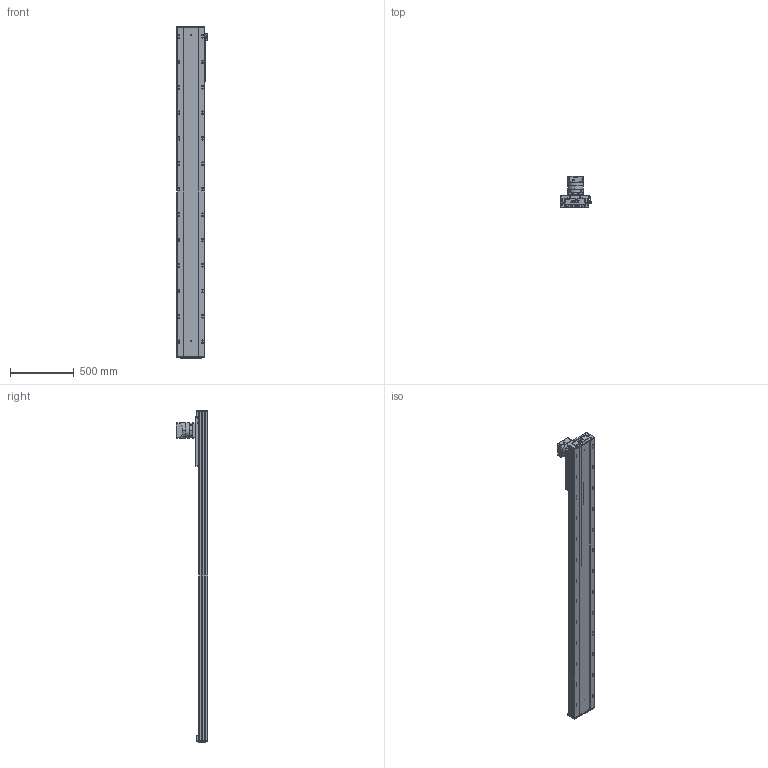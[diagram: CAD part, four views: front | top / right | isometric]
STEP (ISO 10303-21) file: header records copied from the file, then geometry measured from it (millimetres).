
FILE_DESCRIPTION (( 'STEP AP203' ), '1' );
FILE_NAME ('RY220-C-300-UK.SLDASM_2100.step', '2022-08-01T05:59:52', ( '' ), ( '' ), 'SwSTEP 2.0', 'SolidWorks 2016', '' );
FILE_SCHEMA (( 'CONFIG_CONTROL_DESIGN' ));
Length unit declared in the file: millimetre
Products named in the file (10): RY220-齿条模组电机安装板; PF115L1-S2-22-58-110-145-M8; RY220菁釱MK-300_2100; RY140直线电机感应器674光电安装座; RY220-C-300-UK.SLDASM_2100; 滅袉蝶輸ㄗG412隅秶ㄘ; RY220喘沭賑輸; 覜茼ん674; RY220喘沭俋离覜茼え; RY220喘沭綴裔啣
Assembly tree (12 placements, depth 2):
  RY220-C-300-UK.SLDASM_2100
    RY220菁釱MK-300_2100
    RY220喘沭賑輸
    RY220-齿条模组电机安装板
    PF115L1-S2-22-58-110-145-M8
    RY220喘沭綴裔啣  x2
    滅袉蝶輸ㄗG412隅秶ㄘ  x2
    RY140直线电机感应器674光电安装座
    覜茼ん674  x2
    RY220喘沭俋离覜茼え
Bounding box: 247 x 244.5 x 2609 mm (x, y, z)
Volume: 18316926.9 mm3; surface area: 3724537.2 mm2
Topology: 18 solids, 26 shells, 2220 faces, 5969 edges, 3749 vertices
Faces by surface type: cylinder 1057, plane 751, cone 250, bspline 162
Entity records: 70405 total; most frequent: CARTESIAN_POINT 19177, DIRECTION 10551, ORIENTED_EDGE 10338, EDGE_CURVE 5169, AXIS2_PLACEMENT_3D 4031, VERTEX_POINT 3375, EDGE_LOOP 2572, VECTOR 2489
